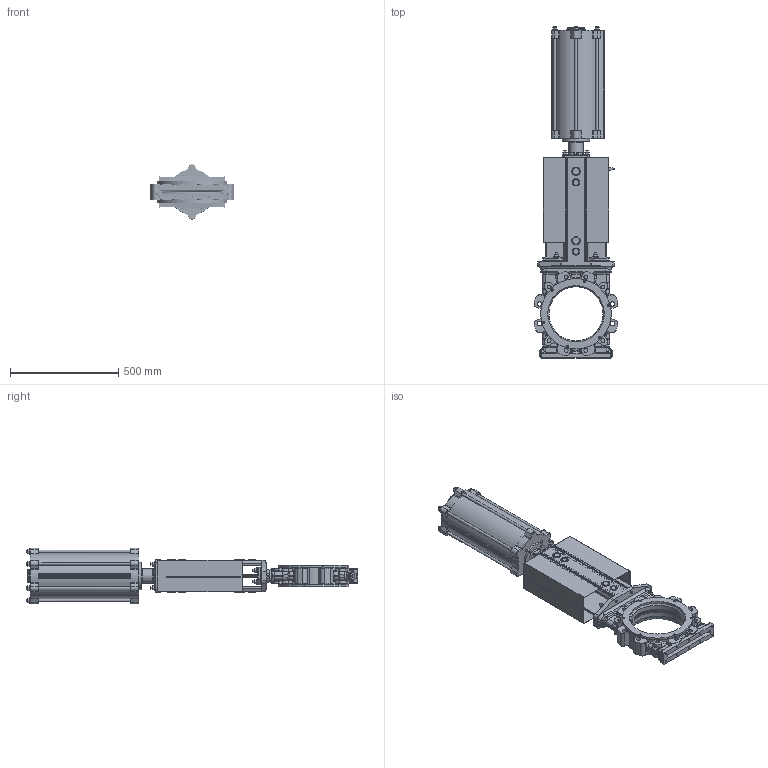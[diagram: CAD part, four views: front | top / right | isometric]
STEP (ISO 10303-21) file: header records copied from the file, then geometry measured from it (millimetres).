
FILE_DESCRIPTION(/* description */ (''),/* implementation_level */ '2;1');
FILE_NAME(/* name */ 'F:\3D-block färdiga för export\SLV-SLF\DN 250\SLV-DN250-PN10-FRSC200-320 .stp',/* time_stamp */ '2020-12-16T09:53:06+01:00',/* author */ ('MATZET'),/* organization */ (''),/* preprocessor_version */ 'ST-DEVELOPER v18',/* originating_system */ 'Autodesk Inventor 2020',/* authorisation */ '');
FILE_SCHEMA (('AUTOMOTIVE_DESIGN { 1 0 10303 214 3 1 1 }'));
Products named in the file (1): SLV-DN250-PN10-FRSC200-320 
Bounding box: 387.52 x 1532.5 x 256 mm (x, y, z)
Volume: 14941385 mm3; surface area: 3710440.7 mm2
Topology: 1 solids, 1 shells, 3401 faces, 8578 edges, 5359 vertices
Faces by surface type: plane 1171, cylinder 945, bspline 399, torus 376, cone 358, sphere 152
Full cylindrical faces by diameter (mm): 3 x12, 4 x2, 4.2 x16, 4.5 x8, 4.917 x12, 6 x12, 6.75 x10, 7.5 x16, 8 x12, 8.376 x4, 8.88 x1, 9.5 x2, 10 x21, 10.106 x2, 11 x16, 12 x34, 13 x22, 13.835 x4, 15 x8, 17.5 x16, 18 x2, 18.631 x2, 19 x4, 20.5 x1, 22 x4, 23 x4, 24 x19, 25 x2, 26.44 x2, 26.5 x2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
Entity records: 130080 total; most frequent: CARTESIAN_POINT 45880, DIRECTION 17591, ORIENTED_EDGE 17020, EDGE_CURVE 8510, AXIS2_PLACEMENT_3D 7361, VERTEX_POINT 5359, CIRCLE 4021, EDGE_LOOP 3797
